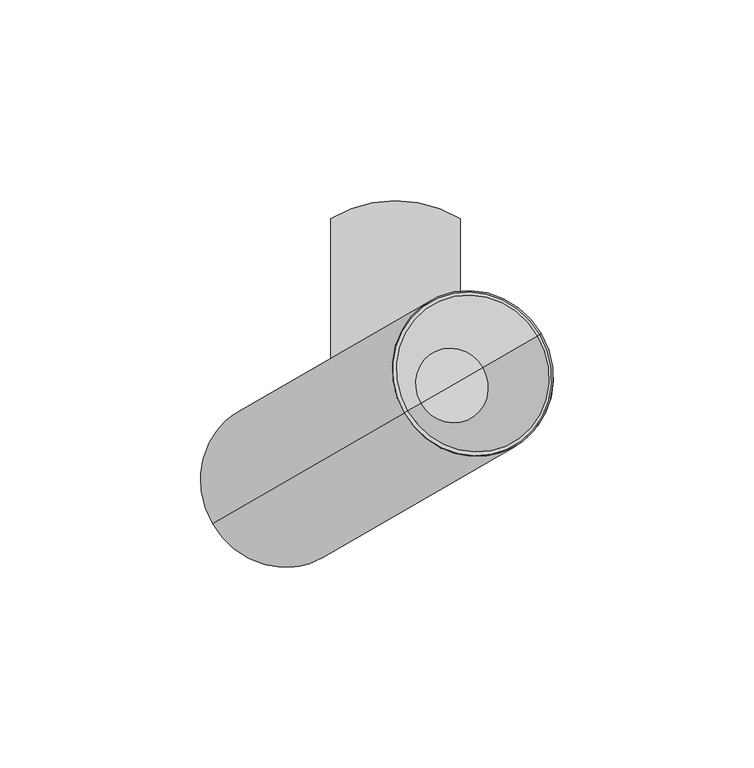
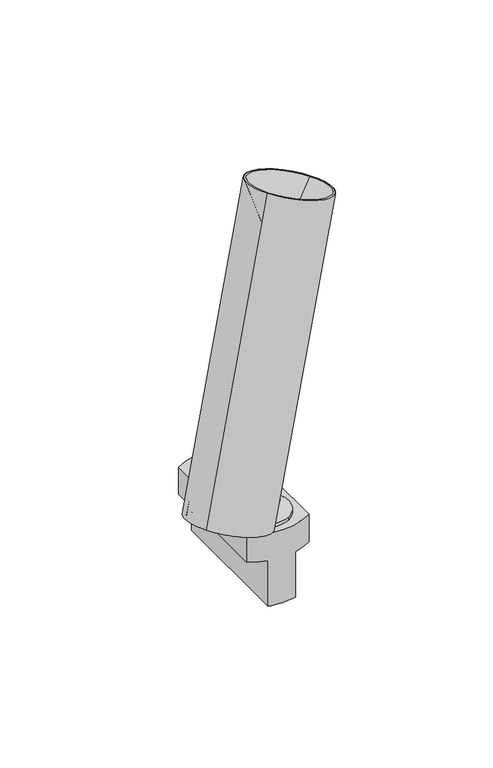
"""IFC4 building model written with IfcOpenShell, lengths in millimetres: light fixture geometry, PIPES T XS : 490lm 7,8W 930 38°."""

from ifc_helpers import new_model, si_unit, point, frame, frame_2d, origin, origin_2d, place, context, project, spatial, polyline, circle_curve, trimmed, segment, composite_curve, outline, extrude, source, transform, mapped, element, save
from ifc_brep_helpers import plane_surface, cylinder_surface, revolved_surface, advanced_brep


def light_fixture_2f70da15(model_context):
    return source(origin(), model_context, "Body", "SolidModel", [
        extrude(outline(composite_curve([segment(polyline([(39.7303383, 0.0), (39.7303383, -8.0), (36.7303383, -8.0), (36.7303383, -10.0), (-21.31827, -10.0), (-21.31827, -2.0)]), True, "CONTINUOUS"), segment(trimmed(circle_curve(frame_2d((-15.691322, -2.0)), 5.626948), [point((-21.31827, -2.0))], [point((-15.691322, 3.626948))], False, "CARTESIAN"), True, "CONTINUOUS"), segment(polyline([(-15.691322, 3.626948), (-9.8735653, 3.626948)]), True, "CONTINUOUS"), segment(trimmed(circle_curve(frame_2d((-17.7182036, -2.2388678)), 9.7952104), [point((-9.8735653, 3.626948))], [point((-8.1822916, 0.0))], False, "CARTESIAN"), True, "CONTINUOUS"), segment(polyline([(-8.1822916, 0.0), (39.7303383, 0.0)]), True, "CONTINUOUS")], self_intersect=False)), frame((-1.830127, -6.830127, 56.5303383), z_axis=(-0.4999999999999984, 0.8660254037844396, 0.0), x_axis=(0.0, 0.0, -1.0)), (0.0, 0.0, 1.0), 10.0),
        extrude(outline(composite_curve([segment(trimmed(circle_curve(origin_2d(), 12.5), [point((-6.25, 10.8253175))], [point((6.25, -10.8253175))], False, "CARTESIAN"), True, "CONTINUOUS"), segment(trimmed(circle_curve(origin_2d(), 12.5), [point((6.25, -10.8253175))], [point((-6.25, 10.8253175))], False, "CARTESIAN"), True, "CONTINUOUS")], self_intersect=False)), frame((0.0, 0.0, 15.0), z_axis=(0.0, 0.0, 1.0), x_axis=(1.0, 0.0, 0.0)), (0.0, 0.0, 1.0), 1.8),
        advanced_brep(
        [(-7.1153658, -15.2862846, -25.0), (-7.1153658, 53.3498174, -25.0), (7.1153658, 53.3498174, -25.0), (7.1153658, -15.2862846, -25.0), (-16.1153658, 49.7317664, 15.0), (-16.1153658, -11.6682336, 15.0), (16.1153658, -11.6682336, 15.0), (16.1153658, 49.7317664, 15.0), (-16.1153658, 49.7317664, 0.0), (-16.1153658, -11.6682336, 0.0), (-7.1153658, -15.2862846, 0.0), (7.1153658, -15.2862846, 0.0), (16.1153658, -11.6682336, 0.0), (16.1153658, 49.7317664, 0.0), (7.1153658, 53.3498174, 0.0), (-7.1153658, 53.3498174, 0.0)],
        [
            (0, 1),
            (1, 2, circle_curve(frame((0.0, 22.6472542, -25.0), z_axis=(0.0, 0.0, -1.0), x_axis=(1.0, 0.0, 0.0)), 31.5162786)),
            (2, 3),
            (3, 0, circle_curve(frame((0.0, 15.4162786, -25.0), z_axis=(0.0, 0.0, -1.0), x_axis=(1.0, 0.0, 0.0)), 31.5162786)),
            (4, 5),
            (5, 6, circle_curve(frame((0.0, 15.4162786, 15.0), z_axis=(0.0, 0.0, 1.0), x_axis=(1.0, 0.0, 0.0)), 31.5162786)),
            (6, 7),
            (7, 4, circle_curve(frame((0.0, 22.6472542, 15.0), z_axis=(0.0, 0.0, 1.0), x_axis=(1.0, 0.0, 0.0)), 31.5162786)),
            (4, 8),
            (8, 9),
            (9, 5),
            (9, 10, circle_curve(frame((0.0, 15.4162786, 0.0), z_axis=(0.0, 0.0, 1.0), x_axis=(1.0, 0.0, 0.0)), 31.5162786)),
            (10, 0),
            (3, 11),
            (11, 12, circle_curve(frame((0.0, 15.4162786, 0.0), z_axis=(0.0, 0.0, 1.0), x_axis=(1.0, 0.0, 0.0)), 31.5162786)),
            (12, 6),
            (12, 13),
            (13, 7),
            (13, 14, circle_curve(frame((0.0, 22.6472542, 0.0), z_axis=(0.0, 0.0, 1.0), x_axis=(1.0, 0.0, 0.0)), 31.5162786)),
            (14, 2),
            (1, 15),
            (15, 8, circle_curve(frame((0.0, 22.6472542, 0.0), z_axis=(0.0, 0.0, 1.0), x_axis=(1.0, 0.0, 0.0)), 31.5162786)),
            (15, 10),
            (11, 14),
        ],
        [
            plane_surface(frame((-16.1153658, -11.6883244, -25.0), z_axis=(0.0, 0.0, -1.0), x_axis=(0.0, 1.0, 0.0))),
            plane_surface(frame((-16.1153658, -11.6883244, 15.0), z_axis=(0.0, 0.0, 1.0), x_axis=(0.0, -1.0, 0.0))),
            plane_surface(frame((-16.1153658, 49.7317664, 15.0), z_axis=(-1.0, 0.0, 0.0), x_axis=(0.0, 0.0, -1.0))),
            cylinder_surface(frame((0.0, 15.4162786, -25.0), z_axis=(0.0, 0.0, 1.0), x_axis=(1.0, 0.0, 0.0)), 31.5162786),
            plane_surface(frame((16.1153658, -11.6682336, 15.0), z_axis=(1.0, 0.0, 0.0), x_axis=(0.0, 0.0, -1.0))),
            cylinder_surface(frame((0.0, 22.6472542, -25.0), z_axis=(0.0, 0.0, 1.0), x_axis=(1.0, 0.0, 0.0)), 31.5162786),
            plane_surface(frame((-7.1153658, 58.6979838, 0.0), z_axis=(0.0, 0.0, -1.0), x_axis=(-1.0, 0.0, 0.0))),
            plane_surface(frame((-7.1153658, -21.3020162, 0.0), z_axis=(-1.0, 0.0, 0.0), x_axis=(0.0, 0.0, -1.0))),
            plane_surface(frame((7.1153658, -11.6883244, 0.0), z_axis=(0.0, 0.0, -1.0), x_axis=(0.0, -1.0, 0.0))),
            plane_surface(frame((7.1153658, 58.6979838, 0.0), z_axis=(1.0, 0.0, 0.0), x_axis=(0.0, 0.0, -1.0))),
        ],
        [
            (0, [[1, 2, 3, 4]]),
            (1, [[5, 6, 7, 8]]),
            (2, [[-5, 9, 10, 11]]),
            (3, [[-6, -11, 12, 13, -4, 14, 15, 16]]),
            (4, [[-7, -16, 17, 18]]),
            (5, [[-8, -18, 19, 20, -2, 21, 22, -9]]),
            (6, [[23, -12, -10, -22]]),
            (7, [[-23, -21, -1, -13]]),
            (8, [[24, -19, -17, -15]]),
            (9, [[-24, -14, -3, -20]]),
        ],
    ),
        advanced_brep(
        [(-5.0879977, 2.8359458, 79.4085638), (-20.1941025, -5.8855678, 31.4842402), (-14.2287191, -2.4414521, 28.977129), (-16.0059079, -3.4675125, 23.3389732), (-14.3247848, -2.4969157, 22.6324365), (2.5585088, 7.2506584, 76.1949159), (-0.0879977, -5.8243082, 79.4085638), (7.5585088, -1.4095956, 76.1949159), (-9.3247848, -11.1571697, 22.6324365), (-11.0059079, -12.1277666, 23.3389732), (-9.2287191, -11.1017062, 28.977129), (-15.1941025, -14.5458219, 31.4842402), (-17.6941025, -10.2156948, 31.4842402), (5.5499791, 3.2042819, 75.9883624), (36.3545849, 20.9893294, 173.7163949), (2.1750823, 1.2557843, 188.081241), (-45.5128171, -26.2768372, 36.790729), (-43.8852217, -25.3371446, 36.1066887), (-42.108033, -24.3110842, 41.7448445), (-26.645877, -15.3840043, 35.2464617), (5.6471913, 3.2604074, 166.9347059), (21.9231449, 12.6573336, 160.094303), (13.7851681, 7.9588705, 163.5145045)],
        [
            (0, 1),
            (1, 2),
            (2, 3),
            (3, 4),
            (4, 5),
            (5, 0),
            (6, 7),
            (7, 8),
            (8, 9),
            (9, 10),
            (10, 11),
            (11, 6),
            (0, 6),
            (11, 12),
            (12, 1),
            (5, 13, circle_curve(frame((-11.5397722, -6.6624906, 83.1707854), z_axis=(-0.29619813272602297, -0.17101007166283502, -0.9396926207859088), x_axis=(0.8137976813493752, 0.4698463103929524, -0.3420201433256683)), 21.0)),
            (13, 7, circle_curve(frame((-11.5397722, -6.6624906, 83.1707854), z_axis=(-0.29619813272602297, -0.17101007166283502, -0.9396926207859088), x_axis=(0.8137976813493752, 0.4698463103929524, -0.3420201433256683)), 21.0)),
            (14, 15, circle_curve(frame((19.2648336, 11.1225568, 180.898818), z_axis=(-0.29619813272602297, -0.17101007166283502, -0.9396926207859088), x_axis=(0.8137976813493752, 0.4698463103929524, -0.3420201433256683)), 21.0)),
            (15, 16),
            (16, 8, circle_curve(frame((-28.4230658, -16.4100647, 29.608306), z_axis=(0.29619813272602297, 0.17101007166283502, 0.9396926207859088), x_axis=(0.8137976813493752, 0.4698463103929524, -0.3420201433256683)), 21.0)),
            (13, 14),
            (15, 14, circle_curve(frame((19.2648336, 11.1225568, 180.898818), z_axis=(-0.29619813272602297, -0.17101007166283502, -0.9396926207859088), x_axis=(0.8137976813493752, 0.4698463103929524, -0.3420201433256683)), 21.0)),
            (4, 16, circle_curve(frame((-28.4230658, -16.4100647, 29.608306), z_axis=(0.29619813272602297, 0.17101007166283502, 0.9396926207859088), x_axis=(0.8137976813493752, 0.4698463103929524, -0.3420201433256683)), 21.0)),
            (16, 17),
            (17, 9, circle_curve(frame((-28.4230658, -16.4100647, 29.608306), z_axis=(0.29619813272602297, 0.17101007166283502, 0.9396926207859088), x_axis=(0.8137976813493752, 0.4698463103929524, -0.3420201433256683)), 19.0)),
            (3, 17, circle_curve(frame((-28.4230658, -16.4100647, 29.608306), z_axis=(0.29619813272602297, 0.17101007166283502, 0.9396926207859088), x_axis=(0.8137976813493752, 0.4698463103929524, -0.3420201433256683)), 19.0)),
            (17, 18),
            (18, 10, circle_curve(frame((-26.645877, -15.3840043, 35.2464617), z_axis=(0.29619813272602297, 0.17101007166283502, 0.9396926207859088), x_axis=(0.8137976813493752, 0.4698463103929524, -0.3420201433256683)), 19.0)),
            (2, 18, circle_curve(frame((-26.645877, -15.3840043, 35.2464617), z_axis=(0.29619813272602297, 0.17101007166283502, 0.9396926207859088), x_axis=(0.8137976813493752, 0.4698463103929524, -0.3420201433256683)), 19.0)),
            (18, 19),
            (19, 12),
            (20, 21, circle_curve(frame((13.7851681, 7.9588705, 163.5145045), z_axis=(0.29619813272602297, 0.17101007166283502, 0.9396926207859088), x_axis=(0.8137976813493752, 0.4698463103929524, -0.3420201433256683)), 10.0)),
            (21, 22),
            (22, 20),
            (21, 20, circle_curve(frame((13.7851681, 7.9588705, 163.5145045), z_axis=(0.29619813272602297, 0.17101007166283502, 0.9396926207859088), x_axis=(0.8137976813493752, 0.4698463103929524, -0.3420201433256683)), 10.0)),
            (14, 21),
            (20, 15),
        ],
        [
            plane_surface(frame((-5.0879977, 2.8359458, 79.4085638), z_axis=(0.49999999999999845, -0.8660254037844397, 0.0), x_axis=(0.29619813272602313, 0.17101007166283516, 0.9396926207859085))),
            plane_surface(frame((-0.0879977, -5.8243082, 79.4085638), z_axis=(-0.49999999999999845, 0.8660254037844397, 0.0), x_axis=(-0.29619813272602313, -0.17101007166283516, -0.9396926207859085))),
            plane_surface(frame((-0.0879977, -5.8243082, 79.4085638), z_axis=(0.8137976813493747, 0.4698463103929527, -0.3420201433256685), x_axis=(-0.4999999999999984, 0.8660254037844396, 0.0))),
            plane_surface(frame((16.1879559, 3.572618, 72.568161), z_axis=(-0.29619813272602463, -0.1710100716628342, -0.9396926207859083), x_axis=(-0.4999999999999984, 0.8660254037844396, 0.0))),
            cylinder_surface(frame((-30.9266453, -17.855507, 21.665666), z_axis=(-0.2961981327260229, -0.171010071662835, -0.9396926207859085), x_axis=(0.8137976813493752, 0.4698463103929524, -0.3420201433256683)), 21.0),
            plane_surface(frame((-28.4230658, -16.4100647, 29.608306), z_axis=(-0.2961981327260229, -0.17101007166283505, -0.9396926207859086), x_axis=(0.813797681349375, 0.46984631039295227, -0.34202014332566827))),
            revolved_surface(polyline([(-12.960909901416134, -7.482984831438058, 23.109923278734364), (-11.18372108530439, -6.456924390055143, 28.74807906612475)]), (-30.9266453, -17.855507, 21.665666), (-0.2961981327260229, -0.171010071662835, -0.9396926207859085)),
            revolved_surface(polyline([(-12.960909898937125, -7.4829848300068, 23.109923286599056), (-11.183721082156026, -6.456924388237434, 28.748079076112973)]), (-30.9266453, -17.855507, 21.665666), (-0.2961981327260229, -0.171010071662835, -0.9396926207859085)),
            plane_surface(frame((-26.645877, -15.3840043, 35.2464617), z_axis=(-0.2961981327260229, -0.17101007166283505, -0.9396926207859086), x_axis=(0.813797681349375, 0.46984631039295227, -0.34202014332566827))),
            plane_surface(frame((13.7851681, 7.9588705, 163.5145045), z_axis=(0.2961981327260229, 0.17101007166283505, 0.9396926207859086), x_axis=(0.813797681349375, 0.46984631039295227, -0.34202014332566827))),
            revolved_surface(polyline([(21.9231449, 12.6573336, 160.094303), (36.3545849, 20.9893294, 173.7163949)]), (-30.9266453, -17.855507, 21.665666), (-0.2961981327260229, -0.171010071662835, -0.9396926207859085)),
        ],
        [
            (0, [[1, 2, 3, 4, 5, 6]]),
            (1, [[7, 8, 9, 10, 11, 12]]),
            (2, [[13, -12, 14, 15, -1]]),
            (3, [[-13, -6, 16, 17, -7]]),
            (4, [[18, 19, 20, -8, -17, 21]]),
            (4, [[-19, 22, -21, -16, -5, 23]]),
            (5, [[24, 25, -9, -20]]),
            (5, [[-24, -23, -4, 26]]),
            (6, [[27, 28, -10, -25]]),
            (7, [[-27, -26, -3, 29]]),
            (8, [[30, 31, -14, -11, -28]]),
            (8, [[-30, -29, -2, -15, -31]]),
            (9, [[32, 33, 34]]),
            (9, [[-33, 35, -34]]),
            (10, [[-18, 36, -32, 37]]),
            (10, [[-22, -37, -35, -36]]),
        ],
    ),
        advanced_brep(
        [(-21.378895, -6.5696081, 27.7254697), (-21.9712913, -6.9116283, 25.8460844), (-17.7058311, -4.4489636, 24.0534112), (-17.1134348, -4.1069435, 25.9327964), (-16.9712913, -15.5718823, 25.8460844), (-16.378895, -15.2298622, 27.7254697), (-12.1134348, -12.7671975, 25.9327964), (-12.7058311, -13.1092177, 24.0534112), (-18.878895, -10.8997351, 27.7254697), (-19.4712913, -11.2417553, 25.8460844), (-27.8306695, -16.0680445, 31.4876913), (-41.6600571, -24.0524452, 37.2998596), (-42.2524534, -24.3944653, 35.4204744), (-28.4230658, -16.4100647, 29.608306)],
        [
            (0, 1),
            (1, 2),
            (2, 3),
            (3, 0),
            (4, 5),
            (5, 6),
            (6, 7),
            (7, 4),
            (0, 8),
            (8, 5),
            (4, 9),
            (9, 1),
            (10, 11),
            (11, 6, circle_curve(frame((-27.8306695, -16.0680445, 31.4876913), z_axis=(0.2961981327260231, 0.17101007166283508, 0.9396926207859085), x_axis=(0.8137976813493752, 0.4698463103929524, -0.3420201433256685)), 16.9936434)),
            (8, 10),
            (3, 11, circle_curve(frame((-27.8306695, -16.0680445, 31.4876913), z_axis=(0.2961981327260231, 0.17101007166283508, 0.9396926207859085), x_axis=(0.8137976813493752, 0.4698463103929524, -0.3420201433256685)), 16.9936434)),
            (11, 12),
            (12, 7, circle_curve(frame((-28.4230658, -16.4100647, 29.608306), z_axis=(0.2961981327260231, 0.17101007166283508, 0.9396926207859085), x_axis=(0.8137976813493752, 0.4698463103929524, -0.3420201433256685)), 16.9936434)),
            (2, 12, circle_curve(frame((-28.4230658, -16.4100647, 29.608306), z_axis=(0.2961981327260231, 0.17101007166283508, 0.9396926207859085), x_axis=(0.8137976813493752, 0.4698463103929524, -0.3420201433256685)), 16.9936434)),
            (12, 13),
            (13, 9),
        ],
        [
            plane_surface(frame((-5.0879977, 2.8359458, 79.4085638), z_axis=(0.49999999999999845, -0.8660254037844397, 0.0), x_axis=(0.29619813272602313, 0.17101007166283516, 0.9396926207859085))),
            plane_surface(frame((-0.0879977, -5.8243082, 79.4085638), z_axis=(-0.49999999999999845, 0.8660254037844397, 0.0), x_axis=(-0.29619813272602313, -0.17101007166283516, -0.9396926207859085))),
            plane_surface(frame((-0.0879977, -5.8243082, 79.4085638), z_axis=(0.8137976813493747, 0.4698463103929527, -0.3420201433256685), x_axis=(-0.4999999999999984, 0.8660254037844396, 0.0))),
            plane_surface(frame((-27.8306695, -16.0680445, 31.4876913), z_axis=(0.2961981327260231, 0.17101007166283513, 0.9396926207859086), x_axis=(0.813797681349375, 0.46984631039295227, -0.34202014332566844))),
            cylinder_surface(frame((10.6891924, 6.1714081, 153.6924792), z_axis=(-0.2961981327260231, -0.17101007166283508, -0.9396926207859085), x_axis=(0.8137976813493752, 0.4698463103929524, -0.3420201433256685)), 16.9936434),
            plane_surface(frame((-28.4230658, -16.4100647, 29.608306), z_axis=(-0.2961981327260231, -0.17101007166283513, -0.9396926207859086), x_axis=(0.813797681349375, 0.46984631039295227, -0.34202014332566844))),
        ],
        [
            (0, [[1, 2, 3, 4]]),
            (1, [[5, 6, 7, 8]]),
            (2, [[-1, 9, 10, -5, 11, 12]]),
            (3, [[13, 14, -6, -10, 15]]),
            (3, [[-13, -15, -9, -4, 16]]),
            (4, [[17, 18, -7, -14]]),
            (4, [[-17, -16, -3, 19]]),
            (5, [[20, 21, -11, -8, -18]]),
            (5, [[-20, -19, -2, -12, -21]]),
        ],
    ),
        advanced_brep(
        [(6.406297, 3.6986773, 167.6798493), (21.7564354, 12.5610839, 161.2285449), (14.0813662, 8.1298806, 164.4541971), (3.1218696, 1.8024122, 187.6833284), (35.4077976, 20.4427014, 174.1143075), (2.1750823, 1.2557843, 188.081241), (36.3545849, 20.9893294, 173.7163949), (5.6471913, 3.2604074, 166.9347059), (21.9231449, 12.6573336, 160.094303), (13.7851681, 7.9588705, 163.5145045)],
        [
            (0, 1, circle_curve(frame((14.0813662, 8.1298806, 164.4541971), z_axis=(0.2961981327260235, 0.17101007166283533, 0.9396926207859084), x_axis=(0.8137976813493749, 0.4698463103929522, -0.34202014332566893)), 9.431176)),
            (1, 2),
            (2, 0),
            (1, 0, circle_curve(frame((14.0813662, 8.1298806, 164.4541971), z_axis=(0.2961981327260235, 0.17101007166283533, 0.9396926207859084), x_axis=(0.8137976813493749, 0.4698463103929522, -0.34202014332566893)), 9.431176)),
            (3, 4, circle_curve(frame((19.2648336, 11.1225568, 180.898818), z_axis=(0.2961981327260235, 0.17101007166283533, 0.9396926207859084), x_axis=(0.8137976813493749, 0.4698463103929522, -0.34202014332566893)), 19.8365814)),
            (4, 1),
            (0, 3),
            (4, 3, circle_curve(frame((19.2648336, 11.1225568, 180.898818), z_axis=(0.2961981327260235, 0.17101007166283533, 0.9396926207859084), x_axis=(0.8137976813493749, 0.4698463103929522, -0.34202014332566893)), 19.8365814)),
            (5, 6, circle_curve(frame((19.2648336, 11.1225568, 180.898818), z_axis=(0.2961981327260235, 0.17101007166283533, 0.9396926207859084), x_axis=(0.8137976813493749, 0.4698463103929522, -0.34202014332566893)), 21.0)),
            (6, 4),
            (3, 5),
            (6, 5, circle_curve(frame((19.2648336, 11.1225568, 180.898818), z_axis=(0.2961981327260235, 0.17101007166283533, 0.9396926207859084), x_axis=(0.8137976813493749, 0.4698463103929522, -0.34202014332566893)), 21.0)),
            (7, 8, circle_curve(frame((13.7851681, 7.9588705, 163.5145045), z_axis=(0.2961981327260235, 0.17101007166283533, 0.9396926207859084), x_axis=(0.8137976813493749, 0.4698463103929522, -0.34202014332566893)), 10.0)),
            (8, 6),
            (5, 7),
            (8, 7, circle_curve(frame((13.7851681, 7.9588705, 163.5145045), z_axis=(0.2961981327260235, 0.17101007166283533, 0.9396926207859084), x_axis=(0.8137976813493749, 0.4698463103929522, -0.34202014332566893)), 10.0)),
            (9, 8),
            (7, 9),
        ],
        [
            plane_surface(frame((14.0813662, 8.1298806, 164.4541971), z_axis=(0.2961981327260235, 0.17101007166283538, 0.9396926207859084), x_axis=(0.8137976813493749, 0.4698463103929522, -0.34202014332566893))),
            revolved_surface(polyline([(21.7564354, 12.5610839, 161.2285449), (35.4077976, 20.4427014, 174.1143075)]), (-36.8506079, -21.2757084, 2.8718136), (-0.29619813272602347, -0.1710100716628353, -0.9396926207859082)),
            plane_surface(frame((19.2648336, 11.1225568, 180.898818), z_axis=(0.2961981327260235, 0.17101007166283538, 0.9396926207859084), x_axis=(0.8137976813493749, 0.4698463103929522, -0.34202014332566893))),
            revolved_surface(polyline([(36.3545849, 20.9893294, 173.7163949), (21.9231449, 12.6573336, 160.094303)]), (-36.8506079, -21.2757084, 2.8718136), (-0.29619813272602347, -0.1710100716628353, -0.9396926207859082)),
            plane_surface(frame((13.7851681, 7.9588705, 163.5145045), z_axis=(-0.2961981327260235, -0.17101007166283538, -0.9396926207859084), x_axis=(0.8137976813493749, 0.4698463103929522, -0.34202014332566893))),
        ],
        [
            (0, [[1, 2, 3]]),
            (0, [[4, -3, -2]]),
            (1, [[5, 6, -1, 7]]),
            (1, [[8, -7, -4, -6]]),
            (2, [[9, 10, -5, 11]]),
            (2, [[12, -11, -8, -10]]),
            (3, [[13, 14, -9, 15]]),
            (3, [[16, -15, -12, -14]]),
            (4, [[17, -13, 18]]),
            (4, [[-18, -16, -17]]),
        ],
    ),
    ])


if __name__ == "__main__":
    model = new_model("IFC4")
    model_context = context("Model", 3, world=origin())
    ifc_project = project(units=[si_unit("LENGTHUNIT", "METRE", prefix="MILLI")], contexts=[model_context])
    site = spatial("IfcSite", under=ifc_project)
    building = spatial("IfcBuilding", under=site)
    placement = place(None, origin())
    light_fixture_shape = light_fixture_2f70da15(model_context)
    element("IfcLightFixture", 1, ObjectType="PIPES T XS : 490lm 7,8W 930 38°", at=placement, inside=building, context=model_context, shape_type="MappedRepresentation", body=[
        mapped(light_fixture_shape, transform((0.0, 0.0, 0.0), x_axis=(1.0, 0.0, 0.0), y_axis=(0.0, 1.0, 0.0), z_axis=(0.0, 0.0, 1.0))),
    ])
    save(model, "model.ifc")
